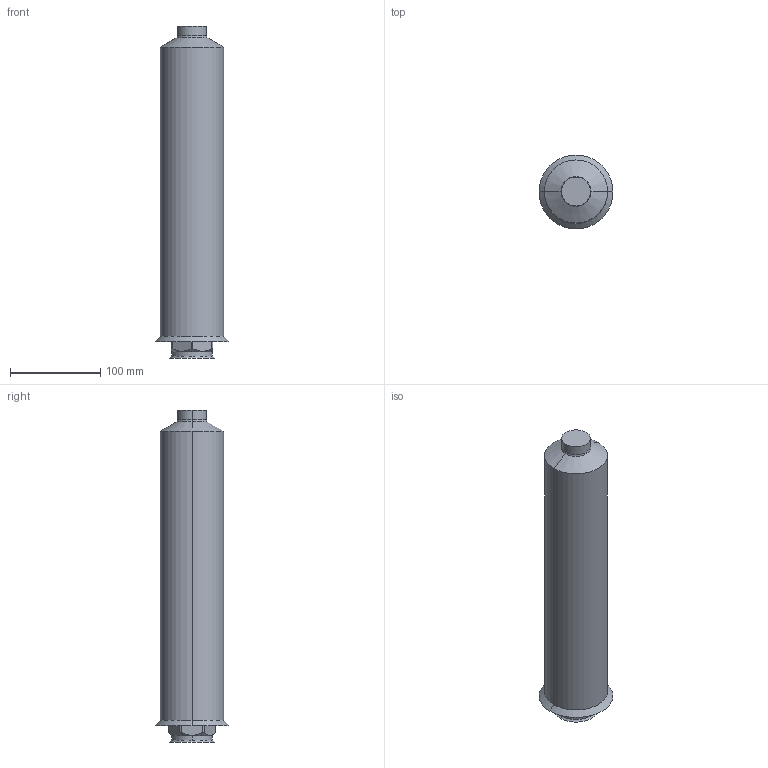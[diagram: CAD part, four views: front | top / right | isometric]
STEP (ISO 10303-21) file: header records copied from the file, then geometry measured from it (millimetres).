
FILE_DESCRIPTION (( 'STEP AP214' ), '1' );
FILE_NAME ('T20_CLOSED_350_HELICAL_70.STEP', '2009-05-11T13:11:03', ( 'Synventive Molding Solutions' ), ( 'Synventive Molding Solutions' ), 'SwSTEP 2.0', 'SolidWorks 2008', '' );
FILE_SCHEMA (( 'AUTOMOTIVE_DESIGN' ));
Length unit declared in the file: millimetre
Products named in the file (1): T20_CLOSED_350_HELICAL_70
Bounding box: 82 x 82 x 368 mm (x, y, z)
Volume: 1910246.9 mm3; surface area: 155979.2 mm2
Topology: 2 solids, 2 shells, 231 faces, 612 edges, 392 vertices
Faces by surface type: cylinder 83, plane 71, bspline 35, torus 24, cone 18
Entity records: 20266 total; most frequent: CARTESIAN_POINT 12473, ORIENTED_EDGE 1224, DIRECTION 955, EDGE_CURVE 612, VERTEX_POINT 392, AXIS2_PLACEMENT_3D 371, EDGE_LOOP 242, UNCERTAINTY_MEASURE_WITH_UNIT 233
